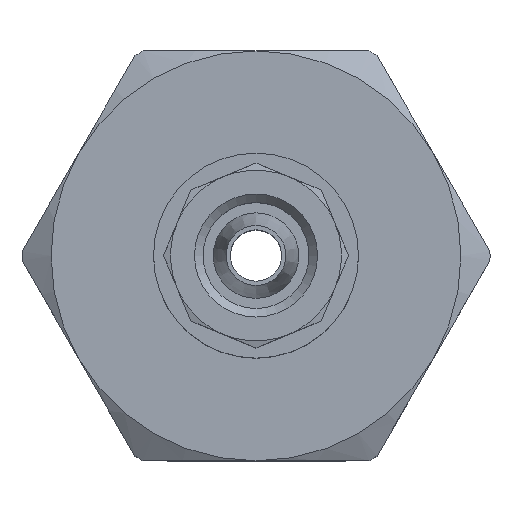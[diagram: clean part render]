
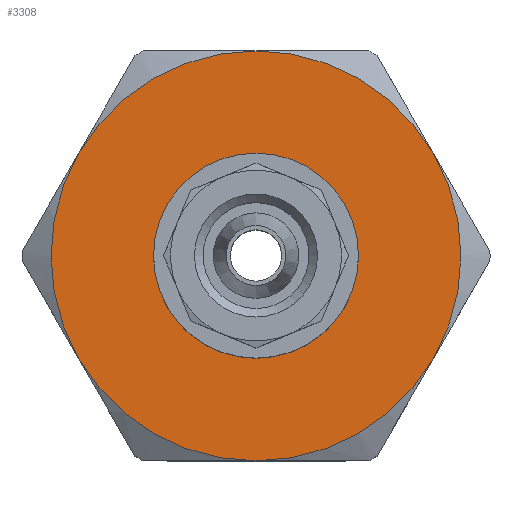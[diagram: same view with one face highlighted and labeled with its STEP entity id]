
A CAD part, top view. The second image highlights one B-rep face of the part: STEP entity #3308.
In plain terms, the highlighted planar face has unit normal (0, 0, 1) as drawn and (0, 1, 0) by its records, which use the part's own axes.
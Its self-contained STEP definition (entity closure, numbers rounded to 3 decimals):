
#1508=PLANE('',#3170);
#1729=ORIENTED_EDGE('',*,*,#2071,.T.);
#1730=ORIENTED_EDGE('',*,*,#2042,.T.);
#1731=ORIENTED_EDGE('',*,*,#2072,.T.);
#1732=ORIENTED_EDGE('',*,*,#2073,.T.);
#1733=ORIENTED_EDGE('',*,*,#2074,.T.);
#1734=ORIENTED_EDGE('',*,*,#2070,.T.);
#1735=ORIENTED_EDGE('',*,*,#2075,.T.);
#1836=CIRCLE('',#3138,12.);
#1842=CIRCLE('',#3169,12.);
#1843=CIRCLE('',#3171,12.);
#1844=CIRCLE('',#3172,12.);
#1845=CIRCLE('',#3173,12.);
#1846=CIRCLE('',#3174,12.);
#1847=CIRCLE('',#3175,4.25);
#1919=VERTEX_POINT('',#2883);
#1923=VERTEX_POINT('',#2894);
#1927=VERTEX_POINT('',#2905);
#1934=VERTEX_POINT('',#2929);
#1939=VERTEX_POINT('',#2943);
#1943=VERTEX_POINT('',#2955);
#1945=VERTEX_POINT('',#2969);
#2042=EDGE_CURVE('',#1923,#1927,#1836,.T.);
#2070=EDGE_CURVE('',#1943,#1919,#1842,.T.);
#2071=EDGE_CURVE('',#1919,#1923,#1843,.T.);
#2072=EDGE_CURVE('',#1927,#1934,#1844,.T.);
#2073=EDGE_CURVE('',#1934,#1939,#1845,.T.);
#2074=EDGE_CURVE('',#1939,#1943,#1846,.T.);
#2075=EDGE_CURVE('',#1945,#1945,#1847,.T.);
#2164=EDGE_LOOP('',(#1729,#1730,#1731,#1732,#1733,#1734));
#2165=EDGE_LOOP('',(#1735));
#2276=FACE_BOUND('',#2164,.T.);
#2277=FACE_BOUND('',#2165,.T.);
#2542=DIRECTION('',(0.,1.,0.));
#2543=DIRECTION('',(0.,0.,-12.));
#2612=DIRECTION('',(0.,1.,0.));
#2613=DIRECTION('',(0.,0.,-12.));
#2614=DIRECTION('',(0.,1.,0.));
#2615=DIRECTION('',(1.,0.,0.));
#2616=DIRECTION('',(0.,1.,0.));
#2617=DIRECTION('',(0.,0.,-12.));
#2618=DIRECTION('',(0.,1.,0.));
#2619=DIRECTION('',(0.,0.,-12.));
#2620=DIRECTION('',(0.,1.,0.));
#2621=DIRECTION('',(0.,0.,-12.));
#2622=DIRECTION('',(0.,1.,0.));
#2623=DIRECTION('',(0.,0.,-12.));
#2624=DIRECTION('',(0.,-1.,0.));
#2625=DIRECTION('',(0.,0.,4.25));
#2883=CARTESIAN_POINT('',(19.477,22.545,6.));
#2894=CARTESIAN_POINT('',(19.477,22.545,-6.));
#2905=CARTESIAN_POINT('',(9.085,22.545,-12.));
#2907=CARTESIAN_POINT('',(9.085,22.545,0.));
#2929=CARTESIAN_POINT('',(-1.308,22.545,-6.));
#2943=CARTESIAN_POINT('',(-1.308,22.545,6.));
#2955=CARTESIAN_POINT('',(9.085,22.545,12.));
#2963=CARTESIAN_POINT('',(9.085,22.545,0.));
#2964=CARTESIAN_POINT('',(19.477,22.545,-6.));
#2965=CARTESIAN_POINT('',(9.085,22.545,0.));
#2966=CARTESIAN_POINT('',(9.085,22.545,0.));
#2967=CARTESIAN_POINT('',(9.085,22.545,0.));
#2968=CARTESIAN_POINT('',(9.085,22.545,0.));
#2969=CARTESIAN_POINT('',(9.085,22.545,4.25));
#2970=CARTESIAN_POINT('',(9.085,22.545,0.));
#3138=AXIS2_PLACEMENT_3D('',#2907,#2542,#2543);
#3169=AXIS2_PLACEMENT_3D('',#2963,#2612,#2613);
#3170=AXIS2_PLACEMENT_3D('',#2964,#2614,#2615);
#3171=AXIS2_PLACEMENT_3D('',#2965,#2616,#2617);
#3172=AXIS2_PLACEMENT_3D('',#2966,#2618,#2619);
#3173=AXIS2_PLACEMENT_3D('',#2967,#2620,#2621);
#3174=AXIS2_PLACEMENT_3D('',#2968,#2622,#2623);
#3175=AXIS2_PLACEMENT_3D('',#2970,#2624,#2625);
#3308=ADVANCED_FACE('',(#2276,#2277),#1508,.T.);
